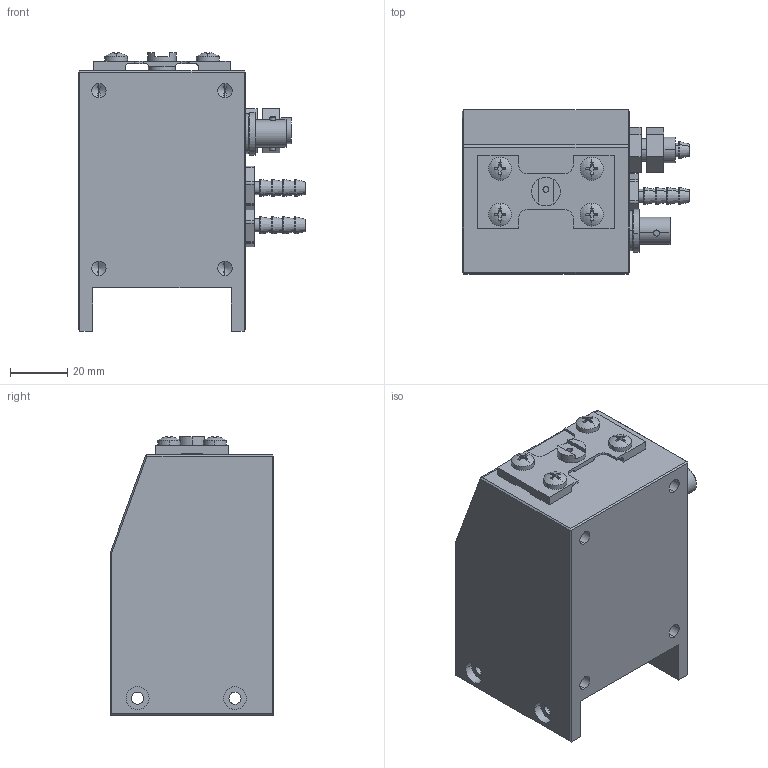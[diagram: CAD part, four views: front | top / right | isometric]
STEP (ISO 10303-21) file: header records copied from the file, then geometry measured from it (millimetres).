
FILE_DESCRIPTION (( 'STEP AP203' ), '1' );
FILE_NAME ('P91.X20K-B1蚾饜极(諦誧)24.04.11.STEP', '2024-04-11T07:36:47', ( 'Windows User' ), ( 'P R C' ), 'SwSTEP 2.0', 'SolidWorks 2016', '' );
FILE_SCHEMA (( 'CONFIG_CONTROL_DESIGN' ));
Length unit declared in the file: millimetre
Products named in the file (1): P91.X20K-B1蚾饜极(諦誧)24.04.11
Bounding box: 79.4 x 57.2 x 97.26 mm (x, y, z)
Volume: 257695.9 mm3; surface area: 39188.7 mm2
Topology: 13 solids, 13 shells, 375 faces, 905 edges, 586 vertices
Faces by surface type: plane 186, cylinder 157, cone 24, sphere 8
Entity records: 11124 total; most frequent: DIRECTION 2017, CARTESIAN_POINT 1951, ORIENTED_EDGE 1794, EDGE_CURVE 897, AXIS2_PLACEMENT_3D 764, VERTEX_POINT 586, VECTOR 489, LINE 489
